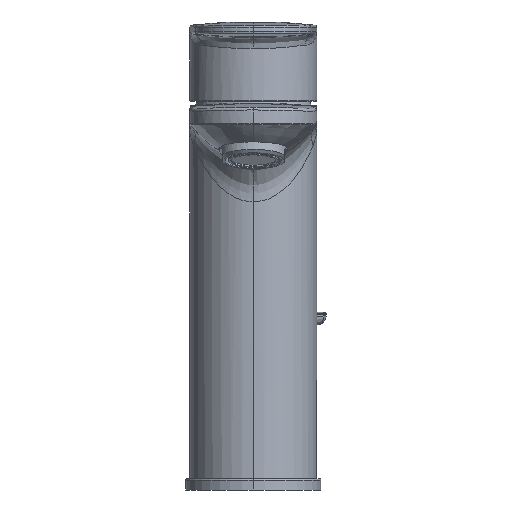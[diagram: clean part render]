
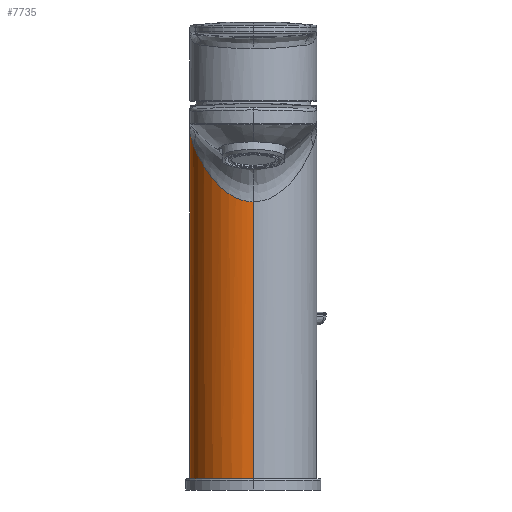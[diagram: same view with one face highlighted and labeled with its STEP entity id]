
A CAD part, left-side view. The second image highlights one B-rep face of the part: STEP entity #7735.
In plain terms, the highlighted cylindrical face has radius 22.5 mm (diameter 45 mm), a partial arc.
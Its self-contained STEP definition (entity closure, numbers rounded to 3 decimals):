
#623=CARTESIAN_POINT('',(0.,0.,120.04));
#624=DIRECTION('',(0.,0.,-1.));
#625=DIRECTION('',(-0.125,0.992,0.));
#626=AXIS2_PLACEMENT_3D('',#623,#624,#625);
#829=DIRECTION('',(0.,0.,-1.));
#830=VECTOR('',#829,98.431);
#831=CARTESIAN_POINT('',(-22.5,0.,85.931));
#832=LINE('',#831,#830);
#833=CARTESIAN_POINT('',(0.,0.,-12.5));
#834=DIRECTION('',(0.,0.,-1.));
#835=DIRECTION('',(-1.,0.,0.));
#836=AXIS2_PLACEMENT_3D('',#833,#834,#835);
#838=DIRECTION('',(0.,0.,1.));
#839=VECTOR('',#838,132.54);
#840=CARTESIAN_POINT('',(22.5,0.,-12.5));
#841=LINE('',#840,#839);
#842=CARTESIAN_POINT('',(-2.817,22.323,120.04));
#843=CARTESIAN_POINT('',(-2.596,22.351,119.972));
#844=CARTESIAN_POINT('',(-2.159,22.399,119.835));
#845=CARTESIAN_POINT('',(-1.614,22.444,119.658));
#846=CARTESIAN_POINT('',(-1.185,22.47,119.514));
#847=CARTESIAN_POINT('',(-0.926,22.481,119.425));
#848=CARTESIAN_POINT('',(-0.731,22.488,119.356));
#849=CARTESIAN_POINT('',(-0.592,22.492,119.306));
#850=CARTESIAN_POINT('',(-0.444,22.496,119.254));
#851=CARTESIAN_POINT('',(-0.278,22.499,119.212));
#852=CARTESIAN_POINT('',(-0.123,22.5,119.151));
#853=CARTESIAN_POINT('',(-0.04,22.5,119.083));
#854=CARTESIAN_POINT('',(0.,22.5,119.048));
#856=DIRECTION('',(0.,0.,-1.));
#857=VECTOR('',#856,5.272);
#858=CARTESIAN_POINT('',(0.,22.5,119.048));
#859=LINE('',#858,#857);
#860=CARTESIAN_POINT('',(0.,22.5,
113.5));
#861=CARTESIAN_POINT('',(0.003,22.5,113.355));
#862=CARTESIAN_POINT('',(-0.036,22.5,113.056));
#863=CARTESIAN_POINT('',(-0.353,22.498,112.382));
#864=CARTESIAN_POINT('',(-0.572,22.493,112.065));
#865=CARTESIAN_POINT('',(-0.935,22.482,111.582));
#866=CARTESIAN_POINT('',(-1.412,22.458,111.048));
#867=CARTESIAN_POINT('',(-2.044,22.411,110.413));
#868=CARTESIAN_POINT('',(-2.602,22.351,109.907));
#869=CARTESIAN_POINT('',(-2.911,22.311,109.635));
#871=CARTESIAN_POINT('',(-2.911,22.311,109.635));
#872=CARTESIAN_POINT('',(-3.391,22.248,109.223));
#873=CARTESIAN_POINT('',(-4.363,22.089,108.399));
#874=CARTESIAN_POINT('',(-5.807,21.756,107.256));
#875=CARTESIAN_POINT('',(-6.842,21.442,106.364));
#876=CARTESIAN_POINT('',(-7.367,21.26,105.901));
#878=CARTESIAN_POINT('',(-7.367,21.26,105.901));
#879=CARTESIAN_POINT('',(-7.5,21.213,105.776));
#880=CARTESIAN_POINT('',(-7.767,21.119,105.525));
#881=CARTESIAN_POINT('',(-8.297,20.917,105.019));
#882=CARTESIAN_POINT('',(-9.209,20.543,104.132));
#883=CARTESIAN_POINT('',(-10.471,19.938,102.849));
#884=CARTESIAN_POINT('',(-11.911,19.112,101.264));
#885=CARTESIAN_POINT('',(-13.263,18.2,99.596));
#886=CARTESIAN_POINT('',(-14.543,17.194,97.912));
#887=CARTESIAN_POINT('',(-15.756,16.091,96.246));
#888=CARTESIAN_POINT('',(-16.898,14.888,94.62));
#889=CARTESIAN_POINT('',(-17.96,13.588,93.069));
#890=CARTESIAN_POINT('',(-18.772,12.427,91.848));
#891=CARTESIAN_POINT('',(-19.378,11.446,90.914));
#892=CARTESIAN_POINT('',(-19.938,10.454,90.032));
#893=CARTESIAN_POINT('',(-20.581,9.151,88.997));
#894=CARTESIAN_POINT('',(-21.253,7.462,87.909));
#895=CARTESIAN_POINT('',(-21.798,5.679,87.033));
#896=CARTESIAN_POINT('',(-22.2,3.824,86.397));
#897=CARTESIAN_POINT('',(-22.446,1.921,86.015));
#898=CARTESIAN_POINT('',(-22.499,0.64,85.932));
#899=CARTESIAN_POINT('',(-22.5,0.,85.931));
#944=CARTESIAN_POINT('',(-22.5,0.,85.931));
#2587=CARTESIAN_POINT('',(0.,22.5,
113.5));
#2588=CARTESIAN_POINT('',(0.003,22.5,113.53));
#2589=CARTESIAN_POINT('',(-0.001,22.5,
113.592));
#2590=CARTESIAN_POINT('',(0.,22.5,
113.684));
#2591=CARTESIAN_POINT('',(0.001,22.5,113.745));
#2592=CARTESIAN_POINT('',(0.,22.5,113.776));
#4555=VERTEX_POINT('',#944);
#4563=CARTESIAN_POINT('',(22.5,0.,120.04));
#4564=VERTEX_POINT('',#4563);
#4596=CARTESIAN_POINT('',(-2.817,22.323,120.04));
#4597=VERTEX_POINT('',#4596);
#4598=VERTEX_POINT('',#854);
#4599=CARTESIAN_POINT('',(0.,22.5,113.776));
#4600=VERTEX_POINT('',#4599);
#4601=VERTEX_POINT('',#2587);
#4602=VERTEX_POINT('',#869);
#4603=VERTEX_POINT('',#876);
#4889=CARTESIAN_POINT('',(-22.5,0.,-12.5));
#4890=CARTESIAN_POINT('',(22.5,0.,-12.5));
#4891=VERTEX_POINT('',#4889);
#4892=VERTEX_POINT('',#4890);
#7710=CARTESIAN_POINT('',(0.,0.,0.));
#7711=DIRECTION('',(0.,0.,-1.));
#7712=DIRECTION('',(-1.,0.,0.));
#7713=AXIS2_PLACEMENT_3D('',#7710,#7711,#7712);
#7714=CYLINDRICAL_SURFACE('',#7713,22.5);
#7716=ORIENTED_EDGE('',*,*,#7715,.T.);
#7718=ORIENTED_EDGE('',*,*,#7717,.T.);
#7720=ORIENTED_EDGE('',*,*,#7719,.T.);
#7721=ORIENTED_EDGE('',*,*,#7093,.F.);
#7722=ORIENTED_EDGE('',*,*,#7697,.T.);
#7724=ORIENTED_EDGE('',*,*,#7723,.T.);
#7726=ORIENTED_EDGE('',*,*,#7725,.F.);
#7728=ORIENTED_EDGE('',*,*,#7727,.T.);
#7730=ORIENTED_EDGE('',*,*,#7729,.T.);
#7732=ORIENTED_EDGE('',*,*,#7731,.T.);
#7733=EDGE_LOOP('',(#7716,#7718,#7720,#7721,#7722,#7724,#7726,#7728,#7730,
#7732));
#7734=FACE_OUTER_BOUND('',#7733,.F.);
#7735=ADVANCED_FACE('',(#7734),#7714,.T.);
#627=CIRCLE('',#626,22.5);
#837=CIRCLE('',#836,22.5);
#855=B_SPLINE_CURVE_WITH_KNOTS('',3,(#842,#843,#844,#845,#846,#847,#848,#849,
#850,#851,#852,#853,#854),.UNSPECIFIED.,.F.,.F.,(4,1,1,1,1,1,1,1,1,1,4),(0.,
0.234,0.462,0.576,0.689,
0.736,0.783,0.838,0.892,
0.946,1.),.UNSPECIFIED.);
#870=B_SPLINE_CURVE_WITH_KNOTS('',3,(#860,#861,#862,#863,#864,#865,#866,#867,
#868,#869),.UNSPECIFIED.,.F.,.F.,(4,1,1,1,1,1,1,4),(0.,0.143,
0.286,0.429,0.571,0.714,
0.857,1.),.UNSPECIFIED.);
#877=B_SPLINE_CURVE_WITH_KNOTS('',3,(#871,#872,#873,#874,#875,#876),
.UNSPECIFIED.,.F.,.F.,(4,1,1,4),(0.,0.333,0.667,1.),
.UNSPECIFIED.);
#900=B_SPLINE_CURVE_WITH_KNOTS('',3,(#878,#879,#880,#881,#882,#883,#884,#885,
#886,#887,#888,#889,#890,#891,#892,#893,#894,#895,#896,#897,#898,#899),
.UNSPECIFIED.,.F.,.F.,(4,1,1,1,1,1,1,1,1,1,1,1,1,1,1,1,1,1,1,4),(0.,
0.019,0.037,0.075,0.148,
0.221,0.292,0.362,0.43,
0.497,0.562,0.626,0.658,
0.688,0.746,0.8,0.852,
0.902,0.951,1.),.UNSPECIFIED.);
#2593=B_SPLINE_CURVE_WITH_KNOTS('',3,(#2587,#2588,#2589,#2590,#2591,#2592),
.UNSPECIFIED.,.F.,.F.,(4,1,1,4),(0.,0.333,0.667,1.),
.UNSPECIFIED.);
#7093=EDGE_CURVE('',#4597,#4564,#627,.T.);
#7697=EDGE_CURVE('',#4597,#4598,#855,.T.);
#7715=EDGE_CURVE('',#4555,#4891,#832,.T.);
#7717=EDGE_CURVE('',#4891,#4892,#837,.T.);
#7719=EDGE_CURVE('',#4892,#4564,#841,.T.);
#7723=EDGE_CURVE('',#4598,#4600,#859,.T.);
#7725=EDGE_CURVE('',#4601,#4600,#2593,.T.);
#7727=EDGE_CURVE('',#4601,#4602,#870,.T.);
#7729=EDGE_CURVE('',#4602,#4603,#877,.T.);
#7731=EDGE_CURVE('',#4603,#4555,#900,.T.);
